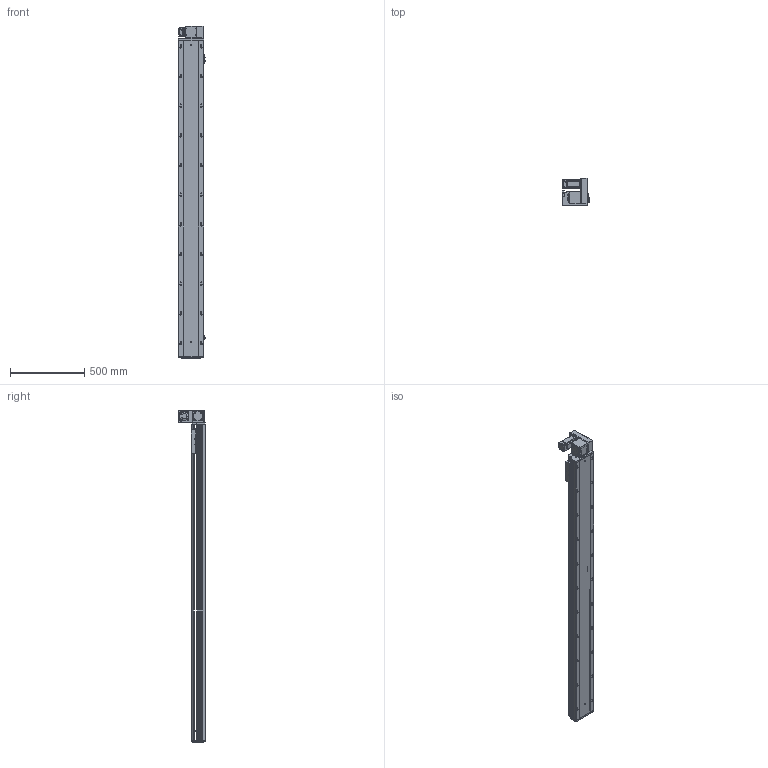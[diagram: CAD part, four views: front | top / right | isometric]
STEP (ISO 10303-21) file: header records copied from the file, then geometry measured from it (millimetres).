
FILE_DESCRIPTION (( 'STEP AP203' ), '1' );
FILE_NAME ('RY170-T-300-UR-P400W.SLDASM_1850.step', '2021-03-01T09:28:51', ( '盈信电脑' ), ( '东莞市道滘镇水果街19号' ), 'SwSTEP 2.0', 'SolidWorks 2012', '' );
FILE_SCHEMA (( 'CONFIG_CONTROL_DESIGN' ));
Length unit declared in the file: millimetre
Products named in the file (18): 15; RY170-T-300-UR-P400W.SLDASM_1850; 滅袉蝶18-10; RY170-T肮祭謫裔啣; RY170-T蹟翐M4; RY170-T肮祭湍揤踡輸2; RY120-T主同步轮轴承压盖; RY170翋肮祭謫釱; RY170同步轮电机安装板(400W); RY170-T肮祭湍揤踡輸1; RY170肮祭謫萇儂欶; RY170綴裔啣; RY170肮祭謫ヶ裔啣; 覜茼ん672; RY170外置感应片(200共用）; RY170-T-300肮祭謫倰第裔啣-DR_1850; RY170-T-300肮祭謫倰第菁釱-DR_1850; RY170肮祭湍臏賑輸
Assembly tree (22 placements, depth 2):
  RY170-T-300-UR-P400W.SLDASM_1850
    RY170-T-300肮祭謫倰第菁釱-DR_1850
    RY170肮祭湍臏賑輸
    RY170-T-300肮祭謫倰第裔啣-DR_1850
    RY170綴裔啣
    覜茼ん672  x3
    RY170外置感应片(200共用）
    RY170肮祭謫ヶ裔啣
    RY170翋肮祭謫釱
    RY170同步轮电机安装板(400W)
    RY170肮祭謫萇儂欶
    RY170-T肮祭湍揤踡輸1  x2
    RY170-T肮祭湍揤踡輸2  x2
    RY120-T主同步轮轴承压盖
    RY170-T肮祭謫裔啣
    RY170-T蹟翐M4
    滅袉蝶18-10  x2
    15
Bounding box: 183.7 x 182 x 2238 mm (x, y, z)
Volume: 10461949.6 mm3; surface area: 3599095.3 mm2
Topology: 22 solids, 22 shells, 2968 faces, 8306 edges, 5299 vertices
Faces by surface type: cylinder 1374, plane 1268, cone 296, bspline 30
Entity records: 89952 total; most frequent: CARTESIAN_POINT 20698, ORIENTED_EDGE 14200, DIRECTION 13866, EDGE_CURVE 7100, AXIS2_PLACEMENT_3D 4917, VERTEX_POINT 4655, LINE 4032, VECTOR 4032
